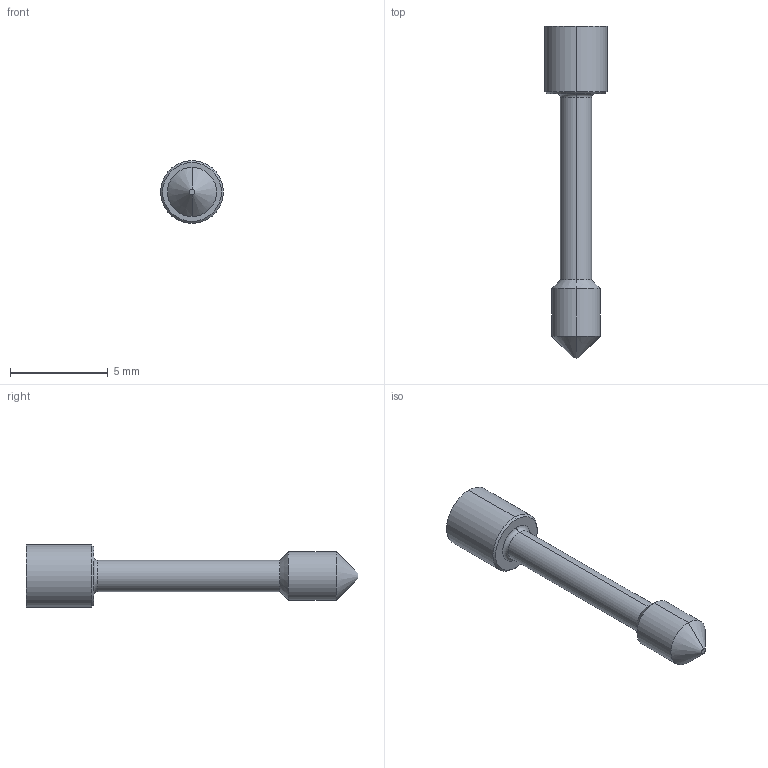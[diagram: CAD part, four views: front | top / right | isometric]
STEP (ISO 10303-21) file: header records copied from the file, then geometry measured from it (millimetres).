
FILE_DESCRIPTION (( 'STEP AP214' ), '1' );
FILE_NAME ('IA 321720.STEP', '2013-10-01T10:54:48', ( '' ), ( '' ), 'SwSTEP 2.0', 'SolidWorks 2011', '' );
FILE_SCHEMA (( 'AUTOMOTIVE_DESIGN' ));
Length unit declared in the file: millimetre
Products named in the file (2): IA 321720
Assembly tree (1 placements, depth 2):
  IA 321720
    IA 321720
Bounding box: 3.2 x 16.95 x 3.2 mm (x, y, z)
Volume: 62 mm3; surface area: 129.4 mm2
Topology: 1 solids, 1 shells, 50 faces, 119 edges, 76 vertices
Faces by surface type: plane 22, cylinder 20, cone 6, torus 2
Entity records: 1539 total; most frequent: DIRECTION 275, CARTESIAN_POINT 249, ORIENTED_EDGE 238, EDGE_CURVE 119, AXIS2_PLACEMENT_3D 102, VERTEX_POINT 76, VECTOR 71, LINE 71
